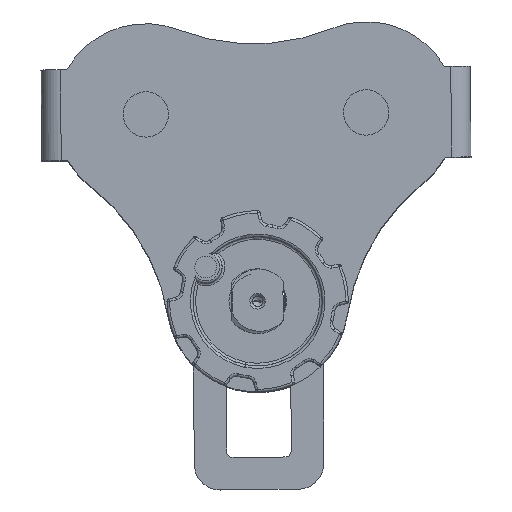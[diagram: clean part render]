
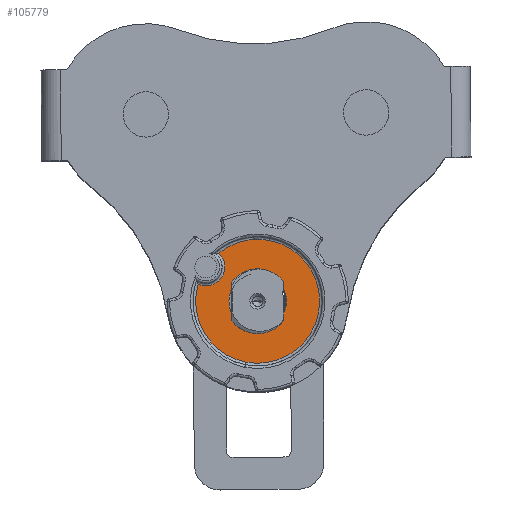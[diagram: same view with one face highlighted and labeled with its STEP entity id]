
A CAD part, top view. The second image highlights one B-rep face of the part: STEP entity #105779.
In plain terms, the highlighted planar face has unit normal (0, 0, 1).
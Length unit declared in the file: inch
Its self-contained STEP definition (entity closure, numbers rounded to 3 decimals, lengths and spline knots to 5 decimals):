
#1193 = CARTESIAN_POINT ( 'NONE',  ( 0.10224, 1.19162, 0.375 ) ) ;
#1447 = DIRECTION ( 'NONE',  ( 1., 0., 0. ) ) ;
#5930 = AXIS2_PLACEMENT_3D ( 'NONE', #107563, #271729, #21919 ) ;
#6824 = CARTESIAN_POINT ( 'NONE',  ( 0., 0., 0.375 ) ) ;
#14396 = CARTESIAN_POINT ( 'NONE',  ( 0., 0., 0.375 ) ) ;
#21919 = DIRECTION ( 'NONE',  ( 1., 0., 0. ) ) ;
#22467 = EDGE_LOOP ( 'NONE', ( #331388, #356344 ) ) ;
#31003 = VERTEX_POINT ( 'NONE', #282522 ) ;
#34015 = EDGE_CURVE ( 'NONE', #264783, #213474, #68963, .T. ) ;
#39016 = CIRCLE ( 'NONE', #131961, 1.196 ) ;
#56206 = CARTESIAN_POINT ( 'NONE',  ( 0., 0., 0.375 ) ) ;
#56868 = DIRECTION ( 'NONE',  ( 0., 0., 1. ) ) ;
#68963 = CIRCLE ( 'NONE', #290248, 1.196 ) ;
#72079 = CARTESIAN_POINT ( 'NONE',  ( -1.196, 0., 0.375 ) ) ;
#81554 = CARTESIAN_POINT ( 'NONE',  ( 0.5547, 0., 0.375 ) ) ;
#87281 = CARTESIAN_POINT ( 'NONE',  ( 0.77031, 0.9149, 0.375 ) ) ;
#98444 = AXIS2_PLACEMENT_3D ( 'NONE', #306719, #56868, #275769 ) ;
#105641 = ORIENTED_EDGE ( 'NONE', *, *, #224412, .T. ) ;
#105779 = ADVANCED_FACE ( 'NONE', ( #144208, #315558 ), #198932, .T. ) ;
#107563 = CARTESIAN_POINT ( 'NONE',  ( 0.45922, 1.10866, 0.375 ) ) ;
#108811 = ORIENTED_EDGE ( 'NONE', *, *, #34015, .T. ) ;
#110950 = ORIENTED_EDGE ( 'NONE', *, *, #212865, .T. ) ;
#119062 = VERTEX_POINT ( 'NONE', #81554 ) ;
#125613 = DIRECTION ( 'NONE',  ( 0., 0., 1. ) ) ;
#131961 = AXIS2_PLACEMENT_3D ( 'NONE', #14396, #125613, #297006 ) ;
#139068 = EDGE_CURVE ( 'NONE', #31003, #119062, #167586, .T. ) ;
#144208 = FACE_BOUND ( 'NONE', #22467, .T. ) ;
#147671 = EDGE_CURVE ( 'NONE', #213474, #295879, #39016, .T. ) ;
#149542 = DIRECTION ( 'NONE',  ( 1., 0., 0. ) ) ;
#154520 = CARTESIAN_POINT ( 'NONE',  ( 1.196, 0., 0.375 ) ) ;
#167586 = CIRCLE ( 'NONE', #354055, 0.5547 ) ;
#173693 = CIRCLE ( 'NONE', #98444, 0.5547 ) ;
#180279 = CIRCLE ( 'NONE', #284991, 1.196 ) ;
#196533 = DIRECTION ( 'NONE',  ( 0., 0., 1. ) ) ;
#198932 = PLANE ( 'NONE',  #326963 ) ;
#211117 = CARTESIAN_POINT ( 'NONE',  ( 0., 0., 0.375 ) ) ;
#212865 = EDGE_CURVE ( 'NONE', #226882, #264783, #180279, .T. ) ;
#213474 = VERTEX_POINT ( 'NONE', #154520 ) ;
#224412 = EDGE_CURVE ( 'NONE', #295879, #226882, #355319, .T. ) ;
#226882 = VERTEX_POINT ( 'NONE', #1193 ) ;
#240292 = DIRECTION ( 'NONE',  ( 0., 0., 1. ) ) ;
#253112 = DIRECTION ( 'NONE',  ( 1., 0., 0. ) ) ;
#262262 = EDGE_LOOP ( 'NONE', ( #110950, #108811, #322278, #105641 ) ) ;
#264783 = VERTEX_POINT ( 'NONE', #72079 ) ;
#271729 = DIRECTION ( 'NONE',  ( 0., 0., -1. ) ) ;
#275769 = DIRECTION ( 'NONE',  ( 1., 0., 0. ) ) ;
#282522 = CARTESIAN_POINT ( 'NONE',  ( -0.5547, 0., 0.375 ) ) ;
#282830 = CARTESIAN_POINT ( 'NONE',  ( 0., 0., 0.375 ) ) ;
#284991 = AXIS2_PLACEMENT_3D ( 'NONE', #56206, #359006, #253112 ) ;
#288180 = DIRECTION ( 'NONE',  ( 0., 0., 1. ) ) ;
#290248 = AXIS2_PLACEMENT_3D ( 'NONE', #6824, #196533, #1447 ) ;
#295879 = VERTEX_POINT ( 'NONE', #87281 ) ;
#297006 = DIRECTION ( 'NONE',  ( 1., 0., 0. ) ) ;
#306719 = CARTESIAN_POINT ( 'NONE',  ( 0., 0., 0.375 ) ) ;
#315558 = FACE_OUTER_BOUND ( 'NONE', #262262, .T. ) ;
#320608 = DIRECTION ( 'NONE',  ( 1., 0., 0. ) ) ;
#322278 = ORIENTED_EDGE ( 'NONE', *, *, #147671, .T. ) ;
#326494 = EDGE_CURVE ( 'NONE', #119062, #31003, #173693, .T. ) ;
#326963 = AXIS2_PLACEMENT_3D ( 'NONE', #282830, #288180, #149542 ) ;
#331388 = ORIENTED_EDGE ( 'NONE', *, *, #139068, .F. ) ;
#354055 = AXIS2_PLACEMENT_3D ( 'NONE', #211117, #240292, #320608 ) ;
#355319 = CIRCLE ( 'NONE', #5930, 0.3665 ) ;
#356344 = ORIENTED_EDGE ( 'NONE', *, *, #326494, .F. ) ;
#359006 = DIRECTION ( 'NONE',  ( 0., 0., 1. ) ) ;
